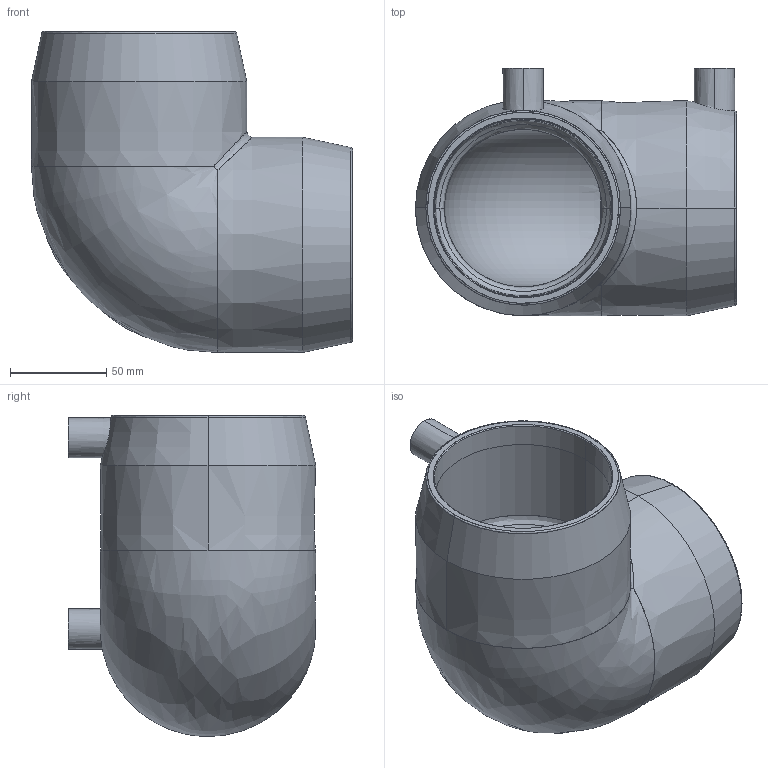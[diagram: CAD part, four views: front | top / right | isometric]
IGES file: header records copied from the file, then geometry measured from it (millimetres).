
Start section: SolidWorks IGES file using analytic representation for surfaces
Global section: file name: G:\Group\Marketing\Public\CAD Offering - Website\5. 90deg elbow\EBKHA90X90.IGS; native system: SolidWorks 2017; preprocessor: SolidWorks 2017; author: hwegrzynska; date: 180920.122011; units: millimetre
Bounding box: 167 x 128.68 x 167 mm (x, y, z)
Surface area: 135123.5 mm2 (no closed solid volume)
Topology: 0 solids, 0 shells, 71 faces, 1052 edges, 1050 vertices
Faces by surface type: revolution 44, bspline 27
